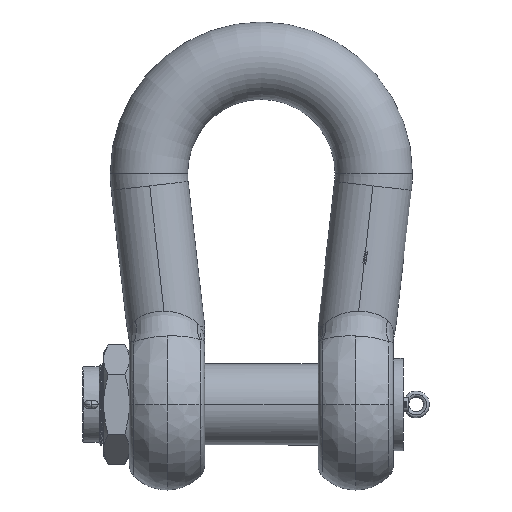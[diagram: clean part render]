
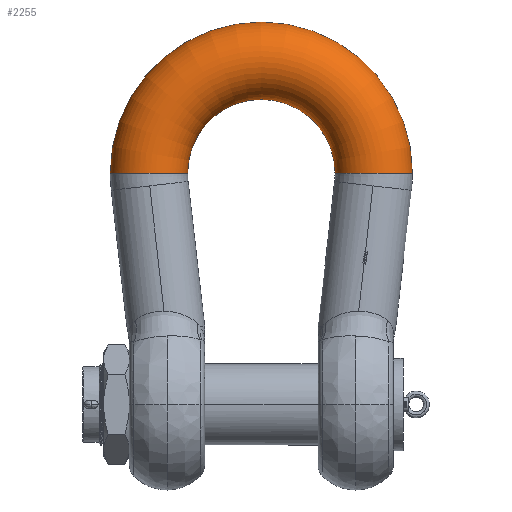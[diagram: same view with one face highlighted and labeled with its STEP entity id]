
A CAD part, front view. The second image highlights one B-rep face of the part: STEP entity #2255.
In plain terms, the highlighted toroidal (fillet/blend) face has major radius 305 mm and minor radius 104.995 mm.
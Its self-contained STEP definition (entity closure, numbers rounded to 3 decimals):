
#2255=ADVANCED_FACE('',(#5353),#5354,.T.);
#5353=FACE_OUTER_BOUND('',#11781,.T.);
#5354=TOROIDAL_SURFACE('',#11782,305.0,104.995);
#11781=EDGE_LOOP('',(#37021,#37022,#37023,#37024));
#11782=AXIS2_PLACEMENT_3D('',#37025,#37026,#37027);
#37021=ORIENTED_EDGE('',*,*,#48399,.T.);
#37022=ORIENTED_EDGE('',*,*,#48400,.F.);
#37023=ORIENTED_EDGE('',*,*,#48401,.T.);
#37024=ORIENTED_EDGE('',*,*,#48274,.F.);
#37025=CARTESIAN_POINT('',(0.0,0.0,628.0));
#37026=DIRECTION('',(0.0,-1.0,0.0));
#37027=DIRECTION('',(1.0,0.0,0.0));
#48274=EDGE_CURVE('',#55784,#55783,#55786,.F.);
#48399=EDGE_CURVE('',#55784,#55948,#55949,.F.);
#48400=EDGE_CURVE('',#55950,#55948,#55951,.T.);
#48401=EDGE_CURVE('',#55950,#55783,#55952,.T.);
#55783=VERTEX_POINT('',#71018);
#55784=VERTEX_POINT('',#71019);
#55786=CIRCLE('',#71021,104.995);
#55948=VERTEX_POINT('',#71359);
#55949=CIRCLE('',#71360,200.005);
#55950=VERTEX_POINT('',#71361);
#55951=B_SPLINE_CURVE_WITH_KNOTS('',5,(#71362,#71363,#71364,#71365,#71366,#71367,#71368,#71369,#71370,#71371,#71372,#71373,#71374,#71375,#71376,#71377,#71378,#71379,#71380,#71381,#71382,#71383,#71384,#71385),.UNSPECIFIED.,.F.,.F.,(6,3,3,3,3,3,3,6),(0.,67.441,134.882,202.324,269.765,337.206,404.647,466.477),.UNSPECIFIED.);
#55952=CIRCLE('',#71386,409.995);
#71018=CARTESIAN_POINT('',(-409.995,0.0,628.0));
#71019=CARTESIAN_POINT('',(-200.005,0.,628.0));
#71021=AXIS2_PLACEMENT_3D('',#106417,#106418,#106419);
#71359=CARTESIAN_POINT('',(200.005,0.,628.0));
#71360=AXIS2_PLACEMENT_3D('',#106424,#106425,#106426);
#71361=CARTESIAN_POINT('',(409.995,0.0,628.0));
#71362=CARTESIAN_POINT('',(409.995,0.,628.0));
#71363=CARTESIAN_POINT('',(409.995,-9.538,628.0));
#71364=CARTESIAN_POINT('',(408.912,-19.075,628.0));
#71365=CARTESIAN_POINT('',(406.746,-28.449,628.0));
#71366=CARTESIAN_POINT('',(400.323,-46.541,628.0));
#71367=CARTESIAN_POINT('',(390.008,-62.732,628.0));
#71368=CARTESIAN_POINT('',(383.948,-70.205,628.0));
#71369=CARTESIAN_POINT('',(370.239,-83.644,628.0));
#71370=CARTESIAN_POINT('',(353.866,-93.668,628.0));
#71371=CARTESIAN_POINT('',(345.142,-97.725,628.0));
#71372=CARTESIAN_POINT('',(326.927,-103.787,628.0));
#71373=CARTESIAN_POINT('',(307.816,-105.611,628.0));
#71374=CARTESIAN_POINT('',(298.196,-105.429,628.0));
#71375=CARTESIAN_POINT('',(279.168,-102.885,628.0));
#71376=CARTESIAN_POINT('',(261.194,-96.139,628.0));
#71377=CARTESIAN_POINT('',(252.63,-91.755,628.0));
#71378=CARTESIAN_POINT('',(236.647,-81.12,628.0));
#71379=CARTESIAN_POINT('',(223.456,-67.172,628.0));
#71380=CARTESIAN_POINT('',(217.683,-59.475,628.0));
#71381=CARTESIAN_POINT('',(208.39,-43.595,628.0));
#71382=CARTESIAN_POINT('',(202.736,-26.106,628.0));
#71383=CARTESIAN_POINT('',(200.915,-17.488,628.0));
#71384=CARTESIAN_POINT('',(200.005,-8.744,628.0));
#71385=CARTESIAN_POINT('',(200.005,0.,628.0));
#71386=AXIS2_PLACEMENT_3D('',#106427,#106428,#106429);
#106417=CARTESIAN_POINT('',(-305.0,0.0,628.0));
#106418=DIRECTION('',(0.,0.0,1.0));
#106419=DIRECTION('',(-1.0,0.0,0.));
#106424=CARTESIAN_POINT('',(0.0,0.,628.0));
#106425=DIRECTION('',(0.0,-1.0,0.0));
#106426=DIRECTION('',(-1.0,0.0,0.0));
#106427=CARTESIAN_POINT('',(0.0,0.,628.0));
#106428=DIRECTION('',(0.0,-1.0,0.0));
#106429=DIRECTION('',(-1.0,0.0,0.0));
